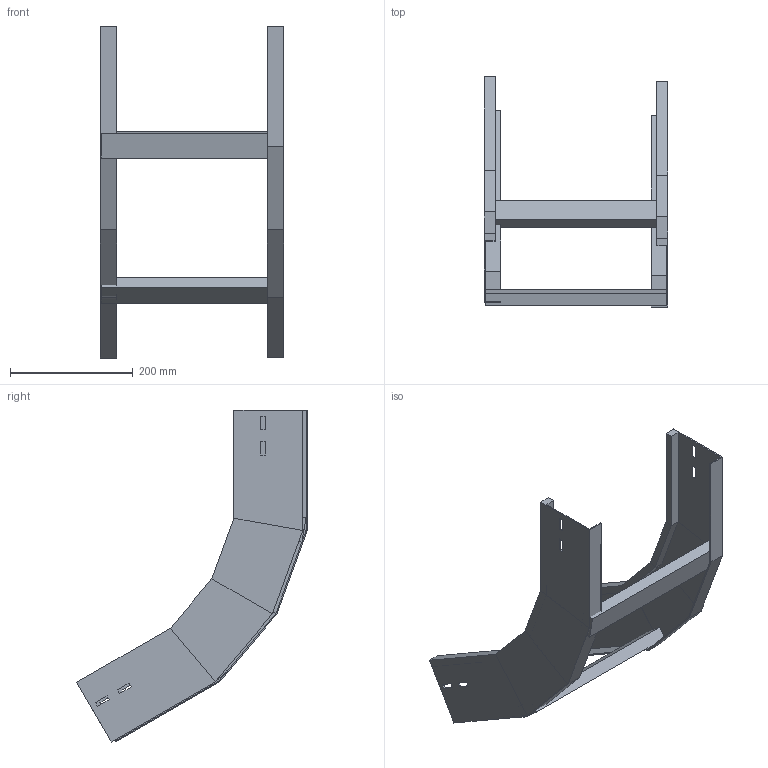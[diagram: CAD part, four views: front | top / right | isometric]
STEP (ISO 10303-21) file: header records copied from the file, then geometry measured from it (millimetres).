
FILE_DESCRIPTION (( 'STEP AP214' ), '1' );
FILE_NAME ('A2X40B3J300XX.step', '2025-04-02T09:57:06', ( '' ), ( '' ), 'SwSTEP 2.0', 'SolidWorks 2023', '' );
FILE_SCHEMA (( 'AUTOMOTIVE_DESIGN' ));
Length unit declared in the file: millimetre
Products named in the file (3): TRAVERSINO_300; LONGH.SALITA_60°_H112.5_R300; A2X40B3J300XX
Assembly tree (4 placements, depth 2):
  A2X40B3J300XX
    LONGH.SALITA_60°_H112.5_R300  x2
    TRAVERSINO_300  x2
Bounding box: 300 x 376.69 x 542.06 mm (x, y, z)
Volume: 1044826.1 mm3; surface area: 465457.4 mm2
Topology: 4 solids, 4 shells, 112 faces, 264 edges, 160 vertices
Faces by surface type: plane 112
Entity records: 1664 total; most frequent: CARTESIAN_POINT 275, ORIENTED_EDGE 264, DIRECTION 258, LINE 132, EDGE_CURVE 132, VECTOR 132, VERTEX_POINT 80, EDGE_LOOP 64
